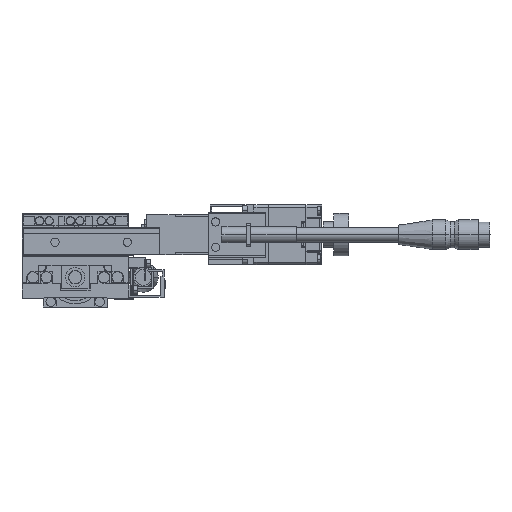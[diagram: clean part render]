
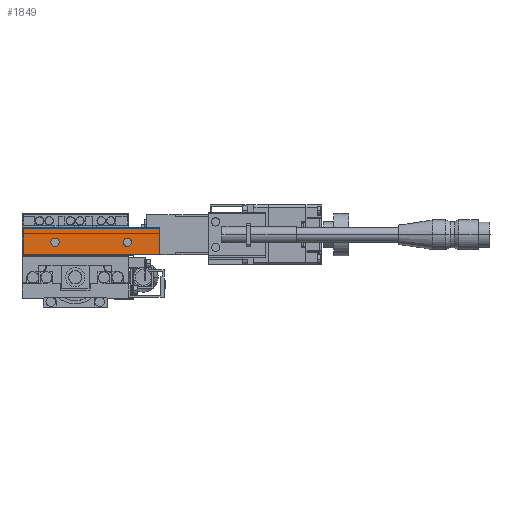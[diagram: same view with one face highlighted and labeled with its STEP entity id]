
A CAD part, left-side view. The second image highlights one B-rep face of the part: STEP entity #1849.
In plain terms, the highlighted planar face has unit normal (-1, 0, 0).
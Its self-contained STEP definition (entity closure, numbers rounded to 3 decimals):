
#1849=ADVANCED_FACE('',(#4826,#4827,#4828),#4829,.F.);
#4826=FACE_BOUND('',#8143,.T.);
#4827=FACE_BOUND('',#8144,.T.);
#4828=FACE_OUTER_BOUND('',#8145,.T.);
#4829=PLANE('',#8146);
#8143=EDGE_LOOP('',(#18816,#18817));
#8144=EDGE_LOOP('',(#18818,#18819));
#8145=EDGE_LOOP('',(#18820,#18821,#18822,#18823));
#8146=AXIS2_PLACEMENT_3D('',#18824,#18825,#18826);
#18816=ORIENTED_EDGE('',*,*,#24342,.T.);
#18817=ORIENTED_EDGE('',*,*,#24315,.T.);
#18818=ORIENTED_EDGE('',*,*,#24343,.T.);
#18819=ORIENTED_EDGE('',*,*,#24319,.T.);
#18820=ORIENTED_EDGE('',*,*,#24344,.T.);
#18821=ORIENTED_EDGE('',*,*,#24345,.F.);
#18822=ORIENTED_EDGE('',*,*,#24346,.F.);
#18823=ORIENTED_EDGE('',*,*,#24339,.T.);
#18824=CARTESIAN_POINT('',(-41.8,-39.5,33.5));
#18825=DIRECTION('',(1.0,0.,0.0));
#18826=DIRECTION('',(0.0,0.0,-1.0));
#24315=EDGE_CURVE('',#30155,#30159,#30161,.T.);
#24319=EDGE_CURVE('',#30163,#30167,#30169,.T.);
#24339=EDGE_CURVE('',#30207,#30205,#30208,.T.);
#24342=EDGE_CURVE('',#30159,#30155,#30212,.T.);
#24343=EDGE_CURVE('',#30167,#30163,#30213,.T.);
#24344=EDGE_CURVE('',#30205,#30214,#30215,.T.);
#24345=EDGE_CURVE('',#30216,#30214,#30217,.T.);
#24346=EDGE_CURVE('',#30207,#30216,#30218,.T.);
#30155=VERTEX_POINT('',#38855);
#30159=VERTEX_POINT('',#38860);
#30161=CIRCLE('',#38863,1.95);
#30163=VERTEX_POINT('',#38865);
#30167=VERTEX_POINT('',#38870);
#30169=CIRCLE('',#38873,1.95);
#30205=VERTEX_POINT('',#38923);
#30207=VERTEX_POINT('',#38926);
#30208=LINE('',#38927,#38928);
#30212=CIRCLE('',#38934,1.95);
#30213=CIRCLE('',#38935,1.95);
#30214=VERTEX_POINT('',#38936);
#30215=LINE('',#38937,#38938);
#30216=VERTEX_POINT('',#38939);
#30217=LINE('',#38940,#38941);
#30218=LINE('',#38942,#38943);
#38855=CARTESIAN_POINT('',(-41.8,7.55,26.5));
#38860=CARTESIAN_POINT('',(-41.8,11.45,26.5));
#38863=AXIS2_PLACEMENT_3D('',#45961,#45962,#45963);
#38865=CARTESIAN_POINT('',(-41.8,-26.45,26.5));
#38870=CARTESIAN_POINT('',(-41.8,-22.55,26.5));
#38873=AXIS2_PLACEMENT_3D('',#45969,#45970,#45971);
#38923=CARTESIAN_POINT('',(-41.8,24.5,33.5));
#38926=CARTESIAN_POINT('',(-41.8,-39.5,33.5));
#38927=CARTESIAN_POINT('',(-41.8,-39.5,33.5));
#38928=VECTOR('',#45999,1000.0);
#38934=AXIS2_PLACEMENT_3D('',#46002,#46003,#46004);
#38935=AXIS2_PLACEMENT_3D('',#46005,#46006,#46007);
#38936=CARTESIAN_POINT('',(-41.8,24.5,20.5));
#38937=CARTESIAN_POINT('',(-41.8,24.5,33.5));
#38938=VECTOR('',#46008,1000.0);
#38939=CARTESIAN_POINT('',(-41.8,-39.5,20.5));
#38940=CARTESIAN_POINT('',(-41.8,-39.5,20.5));
#38941=VECTOR('',#46009,1000.0);
#38942=CARTESIAN_POINT('',(-41.8,-39.5,33.5));
#38943=VECTOR('',#46010,1000.0);
#45961=CARTESIAN_POINT('',(-41.8,9.5,26.5));
#45962=DIRECTION('',(1.0,0.,0.0));
#45963=DIRECTION('',(0.,1.0,0.0));
#45969=CARTESIAN_POINT('',(-41.8,-24.5,26.5));
#45970=DIRECTION('',(1.0,0.,0.0));
#45971=DIRECTION('',(0.,1.0,0.0));
#45999=DIRECTION('',(0.,1.0,0.0));
#46002=CARTESIAN_POINT('',(-41.8,9.5,26.5));
#46003=DIRECTION('',(1.0,0.,0.0));
#46004=DIRECTION('',(0.,1.0,0.0));
#46005=CARTESIAN_POINT('',(-41.8,-24.5,26.5));
#46006=DIRECTION('',(1.0,0.,0.0));
#46007=DIRECTION('',(0.,1.0,0.0));
#46008=DIRECTION('',(0.0,0.0,-1.0));
#46009=DIRECTION('',(0.,1.0,0.0));
#46010=DIRECTION('',(0.0,0.0,-1.0));
